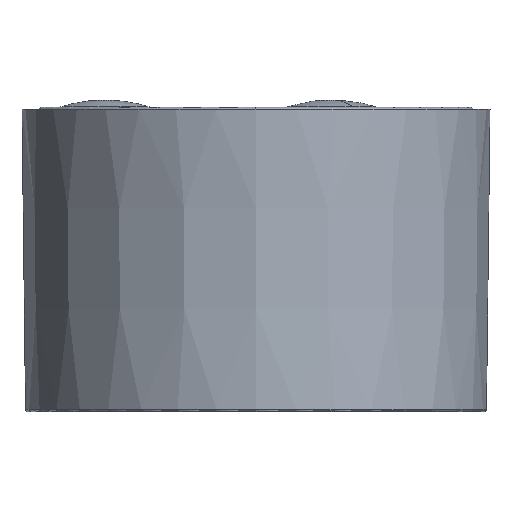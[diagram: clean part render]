
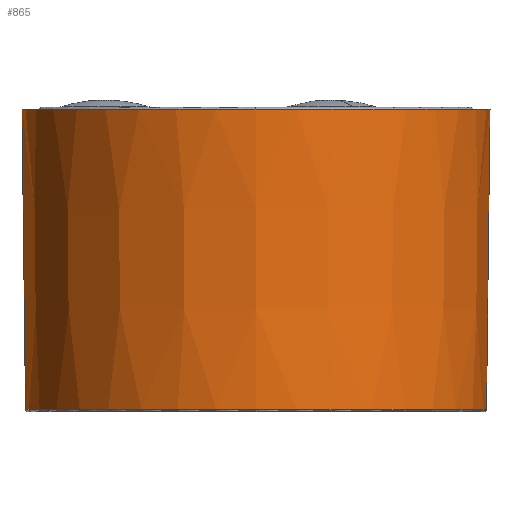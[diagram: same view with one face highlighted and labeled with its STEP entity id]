
A CAD part, left-side view. The second image highlights one B-rep face of the part: STEP entity #865.
In plain terms, the highlighted conical face has half-angle 0.67 degrees and reference radius 49.278 mm.
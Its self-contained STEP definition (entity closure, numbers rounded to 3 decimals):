
#29=CARTESIAN_POINT('',(0.,0.,0.));
#30=DIRECTION('',(0.,0.,-1.));
#31=DIRECTION('',(0.,-1.,0.));
#32=AXIS2_PLACEMENT_3D('',#29,#30,#31);
#53=DIRECTION('',(0.,-0.012,1.));
#54=VECTOR('',#53,63.61);
#55=CARTESIAN_POINT('',(0.,-48.906,
-63.606));
#56=LINE('',#55,#54);
#116=CARTESIAN_POINT('',(0.,0.,-63.606));
#117=DIRECTION('',(0.,0.,1.));
#118=DIRECTION('',(0.,1.,0.));
#119=AXIS2_PLACEMENT_3D('',#116,#117,#118);
#124=CARTESIAN_POINT('',(0.,0.,-63.606));
#125=DIRECTION('',(0.,0.,1.));
#126=DIRECTION('',(-0.003,1.,0.));
#127=AXIS2_PLACEMENT_3D('',#124,#125,#126);
#140=DIRECTION('',(0.,0.012,1.));
#141=VECTOR('',#140,63.61);
#142=CARTESIAN_POINT('',(0.,48.906,
-63.606));
#143=LINE('',#142,#141);
#631=CARTESIAN_POINT('',(0.,49.65,0.));
#632=CARTESIAN_POINT('',(0.,-49.65,0.));
#633=VERTEX_POINT('',#631);
#634=VERTEX_POINT('',#632);
#640=CARTESIAN_POINT('',(0.,48.906,
-63.606));
#642=VERTEX_POINT('',#640);
#643=CARTESIAN_POINT('',(0.,-48.906,-63.606));
#644=VERTEX_POINT('',#643);
#653=CARTESIAN_POINT('',(-0.153,48.906,
-63.606));
#654=VERTEX_POINT('',#653);
#853=CARTESIAN_POINT('',(0.,0.,-31.803));
#854=DIRECTION('',(0.,0.,1.));
#855=DIRECTION('',(0.,1.,0.));
#856=AXIS2_PLACEMENT_3D('',#853,#854,#855);
#857=CONICAL_SURFACE('',#856,49.278,0.67);
#858=ORIENTED_EDGE('',*,*,#840,.F.);
#859=ORIENTED_EDGE('',*,*,#838,.F.);
#860=ORIENTED_EDGE('',*,*,#772,.T.);
#861=ORIENTED_EDGE('',*,*,#742,.F.);
#862=ORIENTED_EDGE('',*,*,#769,.F.);
#863=EDGE_LOOP('',(#858,#859,#860,#861,#862));
#864=FACE_OUTER_BOUND('',#863,.F.);
#865=ADVANCED_FACE('',(#864),#857,.T.);
#33=CIRCLE('',#32,49.65);
#120=CIRCLE('',#119,48.906);
#128=CIRCLE('',#127,48.906);
#742=EDGE_CURVE('',#634,#633,#33,.T.);
#769=EDGE_CURVE('',#644,#634,#56,.T.);
#772=EDGE_CURVE('',#642,#633,#143,.T.);
#838=EDGE_CURVE('',#642,#654,#120,.T.);
#840=EDGE_CURVE('',#654,#644,#128,.T.);
